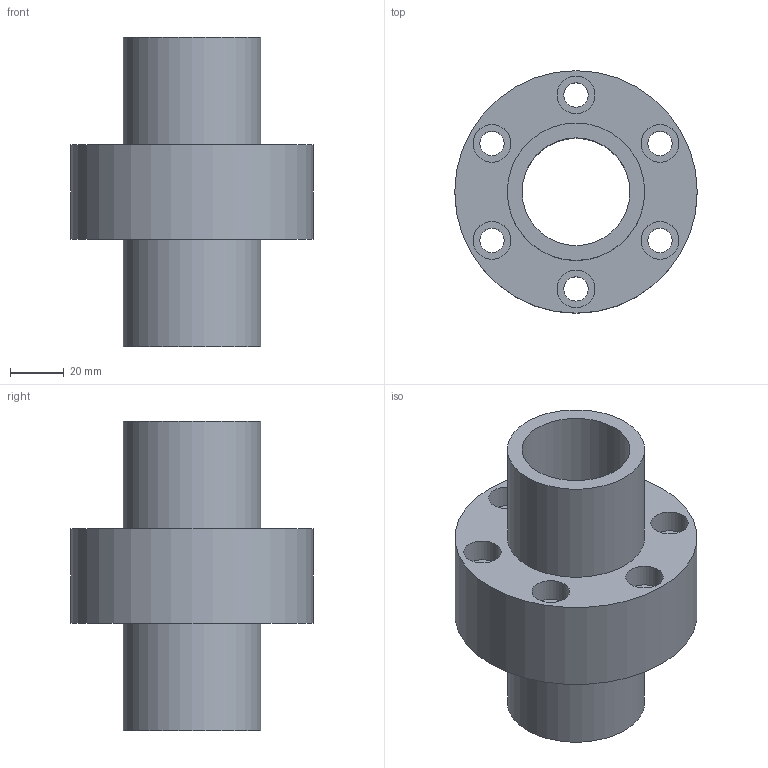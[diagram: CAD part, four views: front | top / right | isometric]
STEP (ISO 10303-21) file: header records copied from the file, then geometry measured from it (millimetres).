
FILE_DESCRIPTION(/* description */ (''),/* implementation_level */ '2;1');
FILE_NAME(/* name */ '40-5T4',/* time_stamp */ '2006-07-31T09:16:59+08:00',/* author */ (''),/* organization */ (''),/* preprocessor_version */ 'ST-DEVELOPER v9',/* originating_system */ 'UGS - NX 4.0',/* authorisation */ '');
FILE_SCHEMA (('CONFIG_CONTROL_DESIGN'));
Length unit declared in the file: millimetre
Products named in the file (1): 40-5T4
Bounding box: 90 x 90 x 115 mm (x, y, z)
Volume: 223606.8 mm3; surface area: 53350.5 mm2
Topology: 1 solids, 1 shells, 26 faces, 53 edges, 37 vertices
Faces by surface type: cylinder 16, plane 10
Full cylindrical faces by diameter (mm): 9 x6, 14 x6, 40 x1, 51 x2, 90 x1
Entity records: 698 total; most frequent: DIRECTION 118, CARTESIAN_POINT 91, EDGE_LOOP 64, ORIENTED_EDGE 64, AXIS2_PLACEMENT_3D 59, FACE_BOUND 54, VERTEX_POINT 32, EDGE_CURVE 32
